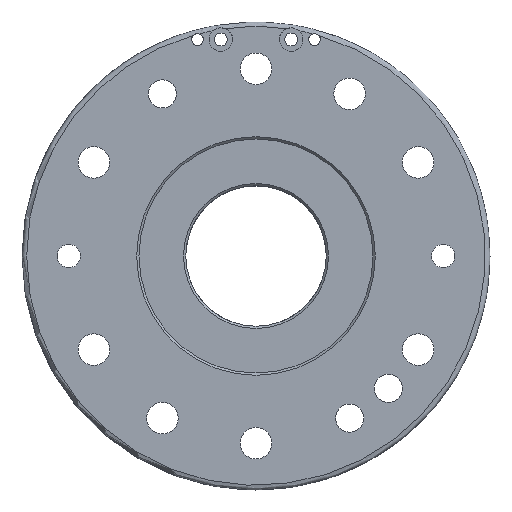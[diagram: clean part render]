
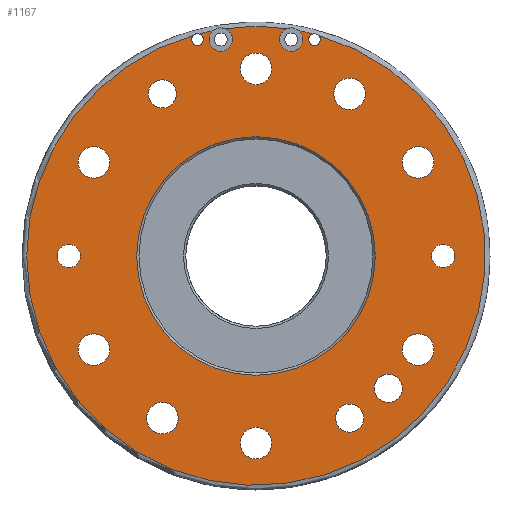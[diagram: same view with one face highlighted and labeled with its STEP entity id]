
A CAD part, left-side view. The second image highlights one B-rep face of the part: STEP entity #1167.
In plain terms, the highlighted planar face has unit normal (-1, 0, 0).
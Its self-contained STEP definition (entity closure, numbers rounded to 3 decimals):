
#111=PLANE('',#1303);
#173=FACE_BOUND('',#360,.T.);
#174=FACE_BOUND('',#361,.T.);
#175=FACE_BOUND('',#362,.T.);
#176=FACE_BOUND('',#363,.T.);
#177=FACE_BOUND('',#364,.T.);
#178=FACE_BOUND('',#365,.T.);
#179=FACE_BOUND('',#366,.T.);
#180=FACE_BOUND('',#367,.T.);
#181=FACE_BOUND('',#368,.T.);
#182=FACE_BOUND('',#369,.T.);
#183=FACE_BOUND('',#370,.T.);
#184=FACE_BOUND('',#371,.T.);
#185=FACE_BOUND('',#372,.T.);
#186=FACE_BOUND('',#373,.T.);
#248=FACE_OUTER_BOUND('',#359,.T.);
#359=EDGE_LOOP('',(#901,#902,#903,#904,#905,#906,#907,#908));
#360=EDGE_LOOP('',(#909));
#361=EDGE_LOOP('',(#910));
#362=EDGE_LOOP('',(#911));
#363=EDGE_LOOP('',(#912));
#364=EDGE_LOOP('',(#913));
#365=EDGE_LOOP('',(#914));
#366=EDGE_LOOP('',(#915));
#367=EDGE_LOOP('',(#916));
#368=EDGE_LOOP('',(#917));
#369=EDGE_LOOP('',(#918));
#370=EDGE_LOOP('',(#919));
#371=EDGE_LOOP('',(#920));
#372=EDGE_LOOP('',(#921));
#373=EDGE_LOOP('',(#922));
#456=CIRCLE('',#1209,2.5);
#458=CIRCLE('',#1212,2.5);
#460=CIRCLE('',#1215,98.);
#461=CIRCLE('',#1216,98.);
#462=CIRCLE('',#1217,98.);
#463=CIRCLE('',#1218,98.);
#465=CIRCLE('',#1221,6.05);
#467=CIRCLE('',#1224,6.);
#469=CIRCLE('',#1227,6.);
#474=CIRCLE('',#1235,6.75);
#479=CIRCLE('',#1243,6.75);
#483=CIRCLE('',#1250,6.75);
#487=CIRCLE('',#1257,6.75);
#491=CIRCLE('',#1264,6.75);
#495=CIRCLE('',#1271,6.75);
#499=CIRCLE('',#1278,6.75);
#503=CIRCLE('',#1285,6.75);
#509=CIRCLE('',#1294,5.);
#512=CIRCLE('',#1299,5.);
#515=CIRCLE('',#1304,5.);
#516=CIRCLE('',#1305,5.);
#517=CIRCLE('',#1306,51.);
#540=VERTEX_POINT('',#1734);
#541=VERTEX_POINT('',#1735);
#543=VERTEX_POINT('',#1750);
#544=VERTEX_POINT('',#1751);
#546=VERTEX_POINT('',#1766);
#547=VERTEX_POINT('',#1768);
#548=VERTEX_POINT('',#1781);
#549=VERTEX_POINT('',#1783);
#551=VERTEX_POINT('',#1801);
#553=VERTEX_POINT('',#1806);
#555=VERTEX_POINT('',#1811);
#560=VERTEX_POINT('',#1824);
#567=VERTEX_POINT('',#1841);
#571=VERTEX_POINT('',#1852);
#575=VERTEX_POINT('',#1863);
#579=VERTEX_POINT('',#1874);
#583=VERTEX_POINT('',#1885);
#587=VERTEX_POINT('',#1896);
#591=VERTEX_POINT('',#1907);
#605=VERTEX_POINT('',#1946);
#606=VERTEX_POINT('',#1948);
#607=VERTEX_POINT('',#1950);
#657=EDGE_CURVE('',#540,#541,#456,.T.);
#660=EDGE_CURVE('',#543,#544,#458,.T.);
#663=EDGE_CURVE('',#540,#546,#460,.T.);
#665=EDGE_CURVE('',#547,#548,#461,.T.);
#667=EDGE_CURVE('',#549,#544,#462,.T.);
#668=EDGE_CURVE('',#543,#541,#463,.T.);
#670=EDGE_CURVE('',#551,#551,#465,.T.);
#672=EDGE_CURVE('',#553,#553,#467,.T.);
#674=EDGE_CURVE('',#555,#555,#469,.T.);
#679=EDGE_CURVE('',#560,#560,#474,.T.);
#686=EDGE_CURVE('',#567,#567,#479,.T.);
#690=EDGE_CURVE('',#571,#571,#483,.T.);
#694=EDGE_CURVE('',#575,#575,#487,.T.);
#698=EDGE_CURVE('',#579,#579,#491,.T.);
#702=EDGE_CURVE('',#583,#583,#495,.T.);
#706=EDGE_CURVE('',#587,#587,#499,.T.);
#710=EDGE_CURVE('',#591,#591,#503,.T.);
#722=EDGE_CURVE('',#549,#548,#509,.T.);
#725=EDGE_CURVE('',#547,#546,#512,.T.);
#728=EDGE_CURVE('',#605,#605,#515,.T.);
#729=EDGE_CURVE('',#606,#606,#516,.T.);
#730=EDGE_CURVE('',#607,#607,#517,.T.);
#901=ORIENTED_EDGE('',*,*,#657,.T.);
#902=ORIENTED_EDGE('',*,*,#668,.F.);
#903=ORIENTED_EDGE('',*,*,#660,.T.);
#904=ORIENTED_EDGE('',*,*,#667,.F.);
#905=ORIENTED_EDGE('',*,*,#722,.T.);
#906=ORIENTED_EDGE('',*,*,#665,.F.);
#907=ORIENTED_EDGE('',*,*,#725,.T.);
#908=ORIENTED_EDGE('',*,*,#663,.F.);
#909=ORIENTED_EDGE('',*,*,#670,.T.);
#910=ORIENTED_EDGE('',*,*,#672,.T.);
#911=ORIENTED_EDGE('',*,*,#674,.T.);
#912=ORIENTED_EDGE('',*,*,#679,.T.);
#913=ORIENTED_EDGE('',*,*,#686,.T.);
#914=ORIENTED_EDGE('',*,*,#690,.T.);
#915=ORIENTED_EDGE('',*,*,#694,.T.);
#916=ORIENTED_EDGE('',*,*,#698,.T.);
#917=ORIENTED_EDGE('',*,*,#702,.T.);
#918=ORIENTED_EDGE('',*,*,#706,.T.);
#919=ORIENTED_EDGE('',*,*,#710,.T.);
#920=ORIENTED_EDGE('',*,*,#728,.T.);
#921=ORIENTED_EDGE('',*,*,#729,.T.);
#922=ORIENTED_EDGE('',*,*,#730,.F.);
#1167=ADVANCED_FACE('',(#248,#173,#174,#175,#176,#177,#178,#179,#180,#181,
#182,#183,#184,#185,#186),#111,.T.);
#1209=AXIS2_PLACEMENT_3D('',#1736,#1374,#1375);
#1212=AXIS2_PLACEMENT_3D('',#1752,#1380,#1381);
#1215=AXIS2_PLACEMENT_3D('',#1767,#1386,#1387);
#1216=AXIS2_PLACEMENT_3D('',#1782,#1388,#1389);
#1217=AXIS2_PLACEMENT_3D('',#1796,#1390,#1391);
#1218=AXIS2_PLACEMENT_3D('',#1797,#1392,#1393);
#1221=AXIS2_PLACEMENT_3D('',#1802,#1398,#1399);
#1224=AXIS2_PLACEMENT_3D('',#1807,#1404,#1405);
#1227=AXIS2_PLACEMENT_3D('',#1812,#1410,#1411);
#1235=AXIS2_PLACEMENT_3D('',#1825,#1426,#1427);
#1243=AXIS2_PLACEMENT_3D('',#1842,#1444,#1445);
#1250=AXIS2_PLACEMENT_3D('',#1853,#1458,#1459);
#1257=AXIS2_PLACEMENT_3D('',#1864,#1472,#1473);
#1264=AXIS2_PLACEMENT_3D('',#1875,#1486,#1487);
#1271=AXIS2_PLACEMENT_3D('',#1886,#1500,#1501);
#1278=AXIS2_PLACEMENT_3D('',#1897,#1514,#1515);
#1285=AXIS2_PLACEMENT_3D('',#1908,#1528,#1529);
#1294=AXIS2_PLACEMENT_3D('',#1932,#1552,#1553);
#1299=AXIS2_PLACEMENT_3D('',#1939,#1562,#1563);
#1303=AXIS2_PLACEMENT_3D('',#1945,#1570,#1571);
#1304=AXIS2_PLACEMENT_3D('',#1947,#1572,#1573);
#1305=AXIS2_PLACEMENT_3D('',#1949,#1574,#1575);
#1306=AXIS2_PLACEMENT_3D('',#1951,#1576,#1577);
#1374=DIRECTION('center_axis',(1.,0.,0.));
#1375=DIRECTION('ref_axis',(0.,0.,
-1.));
#1380=DIRECTION('center_axis',(1.,0.,0.));
#1381=DIRECTION('ref_axis',(0.,0.,
-1.));
#1386=DIRECTION('center_axis',(1.,0.,0.));
#1387=DIRECTION('ref_axis',(0.,-1.,0.));
#1388=DIRECTION('center_axis',(1.,0.,0.));
#1389=DIRECTION('ref_axis',(0.,-1.,0.));
#1390=DIRECTION('center_axis',(1.,0.,0.));
#1391=DIRECTION('ref_axis',(0.,-1.,0.));
#1392=DIRECTION('center_axis',(1.,0.,0.));
#1393=DIRECTION('ref_axis',(0.,-1.,0.));
#1398=DIRECTION('center_axis',(1.,0.,0.));
#1399=DIRECTION('ref_axis',(0.,0.,-1.));
#1404=DIRECTION('center_axis',(1.,0.,0.));
#1405=DIRECTION('ref_axis',(0.,0.,-1.));
#1410=DIRECTION('center_axis',(1.,0.,0.));
#1411=DIRECTION('ref_axis',(0.,0.,-1.));
#1426=DIRECTION('center_axis',(1.,0.,0.));
#1427=DIRECTION('ref_axis',(0.,0.,-1.));
#1444=DIRECTION('center_axis',(1.,0.,0.));
#1445=DIRECTION('ref_axis',(0.,0.,-1.));
#1458=DIRECTION('center_axis',(1.,0.,0.));
#1459=DIRECTION('ref_axis',(0.,0.,-1.));
#1472=DIRECTION('center_axis',(1.,0.,0.));
#1473=DIRECTION('ref_axis',(0.,0.,-1.));
#1486=DIRECTION('center_axis',(1.,0.,0.));
#1487=DIRECTION('ref_axis',(0.,0.,-1.));
#1500=DIRECTION('center_axis',(1.,0.,0.));
#1501=DIRECTION('ref_axis',(0.,0.,-1.));
#1514=DIRECTION('center_axis',(1.,0.,0.));
#1515=DIRECTION('ref_axis',(0.,0.,-1.));
#1528=DIRECTION('center_axis',(1.,0.,0.));
#1529=DIRECTION('ref_axis',(0.,0.,-1.));
#1552=DIRECTION('center_axis',(1.,0.,0.));
#1553=DIRECTION('ref_axis',(0.,0.,1.));
#1562=DIRECTION('center_axis',(1.,0.,0.));
#1563=DIRECTION('ref_axis',(0.,0.,1.));
#1570=DIRECTION('center_axis',(-1.,0.,0.));
#1571=DIRECTION('ref_axis',(0.,0.,1.));
#1572=DIRECTION('center_axis',(1.,0.,0.));
#1573=DIRECTION('ref_axis',(0.,0.,1.));
#1574=DIRECTION('center_axis',(1.,0.,0.));
#1575=DIRECTION('ref_axis',(0.,0.,1.));
#1576=DIRECTION('center_axis',(-1.,0.,0.));
#1577=DIRECTION('ref_axis',(0.,-1.,0.));
#1734=CARTESIAN_POINT('',(0.,24.374,94.92));
#1735=CARTESIAN_POINT('',(0.,26.76,94.276));
#1736=CARTESIAN_POINT('Origin',(0.,25.,92.5));
#1750=CARTESIAN_POINT('',(0.,-26.76,94.276));
#1751=CARTESIAN_POINT('',(0.,-24.374,94.92));
#1752=CARTESIAN_POINT('Origin',(0.,-25.,92.5));
#1766=CARTESIAN_POINT('',(0.,18.271,96.282));
#1767=CARTESIAN_POINT('Origin',(0.,0.,0.));
#1768=CARTESIAN_POINT('',(0.,13.092,97.122));
#1781=CARTESIAN_POINT('',(0.,-13.092,97.122));
#1782=CARTESIAN_POINT('Origin',(0.,0.,0.));
#1783=CARTESIAN_POINT('',(0.,-18.271,96.282));
#1796=CARTESIAN_POINT('Origin',(0.,0.,0.));
#1797=CARTESIAN_POINT('Origin',(0.,0.,0.));
#1801=CARTESIAN_POINT('',(0.,-56.569,-50.519));
#1802=CARTESIAN_POINT('Origin',(0.,-56.569,-56.569));
#1806=CARTESIAN_POINT('',(0.,-40.,-63.282));
#1807=CARTESIAN_POINT('Origin',(0.,-40.,-69.282));
#1811=CARTESIAN_POINT('',(0.,40.,75.282));
#1812=CARTESIAN_POINT('Origin',(0.,40.,69.282));
#1824=CARTESIAN_POINT('',(0.,69.282,-33.25));
#1825=CARTESIAN_POINT('Origin',(0.,69.282,-40.));
#1841=CARTESIAN_POINT('',(0.,0.,86.75));
#1842=CARTESIAN_POINT('Origin',(0.,0.,80.));
#1852=CARTESIAN_POINT('',(0.,-69.282,46.75));
#1853=CARTESIAN_POINT('Origin',(0.,-69.282,40.));
#1863=CARTESIAN_POINT('',(0.,0.,-73.25));
#1864=CARTESIAN_POINT('Origin',(0.,0.,-80.));
#1874=CARTESIAN_POINT('',(0.,-69.282,-33.25));
#1875=CARTESIAN_POINT('Origin',(0.,-69.282,-40.));
#1885=CARTESIAN_POINT('',(0.,-40.,76.032));
#1886=CARTESIAN_POINT('Origin',(0.,-40.,69.282));
#1896=CARTESIAN_POINT('',(0.,69.282,46.75));
#1897=CARTESIAN_POINT('Origin',(0.,69.282,40.));
#1907=CARTESIAN_POINT('',(0.,40.,-62.532));
#1908=CARTESIAN_POINT('Origin',(0.,40.,-69.282));
#1932=CARTESIAN_POINT('Origin',(0.,-15.,92.5));
#1939=CARTESIAN_POINT('Origin',(0.,15.,92.5));
#1945=CARTESIAN_POINT('Origin',(0.,75.,0.));
#1946=CARTESIAN_POINT('',(0.,80.,-5.));
#1947=CARTESIAN_POINT('Origin',(0.,80.,0.));
#1948=CARTESIAN_POINT('',(0.,-80.,-5.));
#1949=CARTESIAN_POINT('Origin',(0.,-80.,0.));
#1950=CARTESIAN_POINT('',(0.,51.,0.));
#1951=CARTESIAN_POINT('Origin',(0.,0.,0.));
